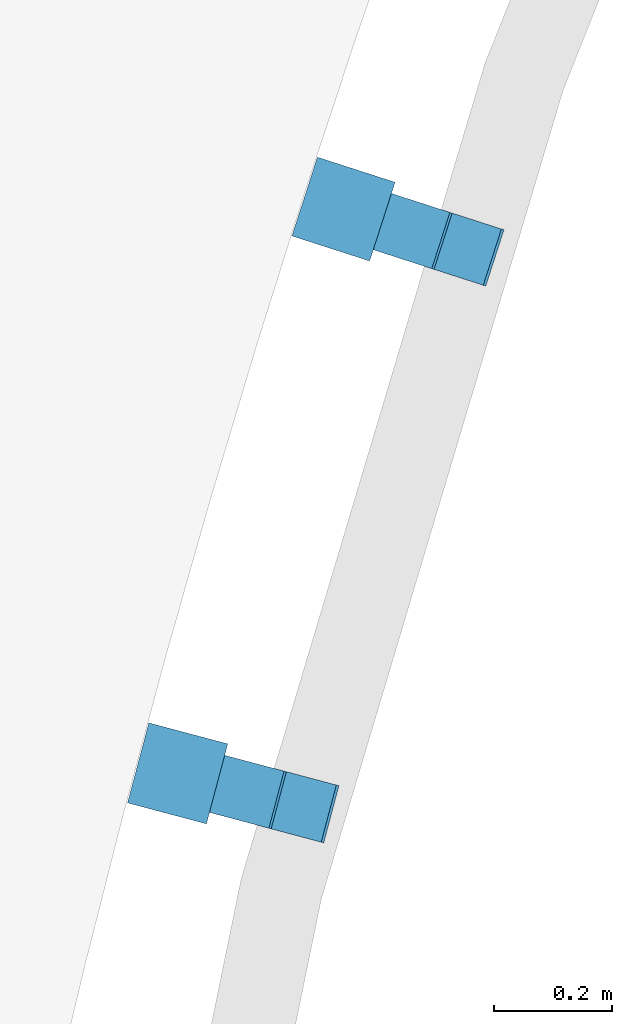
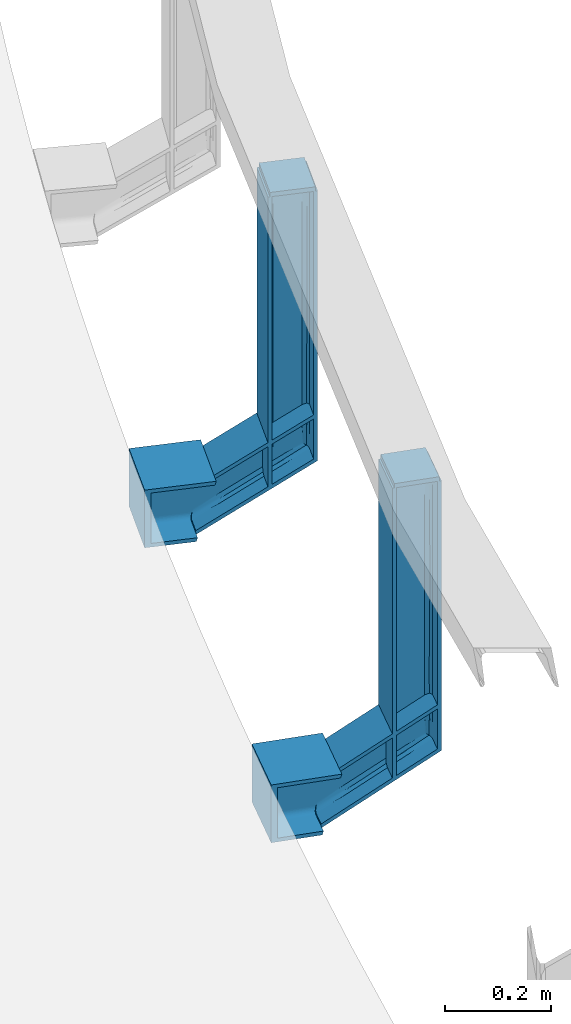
# One storey, part 44 of 68: 2 beams.
"""IFC2X3 building model written with IfcOpenShell, lengths in millimetres."""

from ifc_helpers import new_model, entity, si_unit, converted_unit, derived_unit, direction, frame, origin, place, context, subcontext, project, spatial, faceted_brep, source, transform, mapped, material, type_object, type_shapes, element, save


model = new_model("IFC2X3")

# Units and contexts
model_context = context("Model", 3, precision=0.01, world=origin(), true_north=direction((6.12303176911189e-17, 1.0)))
body_context = subcontext(model_context, "Body", "Model", "MODEL_VIEW")
ifc_project = project(units=[si_unit("LENGTHUNIT", "METRE", prefix="MILLI"), si_unit("AREAUNIT", "SQUARE_METRE", prefix="MILLI"), si_unit("VOLUMEUNIT", "CUBIC_METRE"), converted_unit("PLANEANGLEUNIT", "DEGREE", entity("IfcRatioMeasure", 0.0174532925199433), si_unit("PLANEANGLEUNIT", "RADIAN"), dimensions=[0, 0, 0, 0, 0, 0, 0]), si_unit("MASSUNIT", "GRAM", prefix="KILO"), derived_unit("MASSDENSITYUNIT", [(si_unit("MASSUNIT", "GRAM", prefix="KILO"), 1), (si_unit("LENGTHUNIT", "METRE"), -3)]), derived_unit("MOMENTOFINERTIAUNIT", [(si_unit("LENGTHUNIT", "METRE"), 4)]), si_unit("TIMEUNIT", "SECOND"), si_unit("FREQUENCYUNIT", "HERTZ"), si_unit("THERMODYNAMICTEMPERATUREUNIT", "DEGREE_CELSIUS"), derived_unit("THERMALTRANSMITTANCEUNIT", [(si_unit("MASSUNIT", "GRAM", prefix="KILO"), 1), (si_unit("THERMODYNAMICTEMPERATUREUNIT", "KELVIN"), -1), (si_unit("TIMEUNIT", "SECOND"), -3)]), derived_unit("VOLUMETRICFLOWRATEUNIT", [(si_unit("LENGTHUNIT", "METRE"), 3), (si_unit("TIMEUNIT", "SECOND"), -1)]), si_unit("ELECTRICCURRENTUNIT", "AMPERE"), si_unit("ELECTRICVOLTAGEUNIT", "VOLT"), si_unit("POWERUNIT", "WATT"), si_unit("FORCEUNIT", "NEWTON", prefix="KILO"), si_unit("ILLUMINANCEUNIT", "LUX"), si_unit("LUMINOUSFLUXUNIT", "LUMEN"), si_unit("LUMINOUSINTENSITYUNIT", "CANDELA"), derived_unit("USERDEFINED", [(si_unit("MASSUNIT", "GRAM", prefix="KILO"), -1), (si_unit("LENGTHUNIT", "METRE"), -2), (si_unit("TIMEUNIT", "SECOND"), 3), (si_unit("LUMINOUSFLUXUNIT", "LUMEN"), 1)]), derived_unit("LINEARVELOCITYUNIT", [(si_unit("LENGTHUNIT", "METRE"), 1), (si_unit("TIMEUNIT", "SECOND"), -1)]), si_unit("PRESSUREUNIT", "PASCAL"), derived_unit("USERDEFINED", [(si_unit("LENGTHUNIT", "METRE"), -2), (si_unit("MASSUNIT", "GRAM", prefix="KILO"), 1), (si_unit("TIMEUNIT", "SECOND"), -2)]), derived_unit("LINEARFORCEUNIT", [(si_unit("MASSUNIT", "GRAM", prefix="KILO"), 1), (si_unit("LENGTHUNIT", "METRE"), 1), (si_unit("TIMEUNIT", "SECOND"), -2), (si_unit("LENGTHUNIT", "METRE"), -1)]), derived_unit("PLANARFORCEUNIT", [(si_unit("MASSUNIT", "GRAM", prefix="KILO"), 1), (si_unit("LENGTHUNIT", "METRE"), 1), (si_unit("TIMEUNIT", "SECOND"), -2), (si_unit("LENGTHUNIT", "METRE"), -2)])], contexts=[model_context])

# Site, building, storey
site_placement = place(None, origin())
site = spatial("IfcSite", under=ifc_project, at=site_placement, Name="Theater aan de Parade", CompositionType="ELEMENT")
building_placement = place(site_placement, origin())
building = spatial("IfcBuilding", under=site, at=building_placement, Name="Theater aan de Parade", CompositionType="ELEMENT")
storey_placement = place(building_placement, frame((0.0, 0.0, 8750.0)))
storey = spatial("IfcBuildingStorey", under=building, at=storey_placement, Name="02 tweede verdieping", CompositionType="ELEMENT", Elevation=8750.0)

# Beams
ifc_material = material(Name="00_PBT_MAT_staal_S355")
beam_type = type_object("IfcBeamType", Name="28_PBT_SF_staal_baluster balkon:baluster HEA100", PredefinedType="BEAM", material=ifc_material)
shared_shape = source(origin(), body_context, "Body", "Brep", [
    faceted_brep([(50.0, -43.537813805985, 625.0), (50.0, 44.0, 625.0), (50.0, 44.0, 635.0), (50.0, -43.537813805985, 635.0), (-50.0, -43.537813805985, 625.0), (-50.0, -43.537813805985, 635.0), (-50.0, 44.0, 635.0), (-50.0, 44.0, 625.0)], [[[0, 1, 2, 3]], [[4, 5, 6, 7]], [[1, 0, 4, 7]], [[2, 1, 7, 6]], [[3, 2, 6, 5]], [[0, 3, 5, 4]]]),
    faceted_brep([(70.0, 278.0, -133.0), (70.0, 290.0, -133.0), (70.0, 290.0, 0.0), (70.0, 278.0, 0.0), (-70.0, 278.0, -133.0), (-70.0, 278.0, 0.0), (-70.0, 290.0, 0.0), (-70.0, 290.0, -133.0)], [[[0, 1, 2, 3]], [[4, 5, 6, 7]], [[1, 0, 4, 7]], [[2, 1, 7, 6]], [[3, 2, 6, 5]], [[0, 3, 5, 4]]]),
    faceted_brep([(14.7499999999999, 278.0, -124.5), (70.0, 278.0, -124.5), (70.0, 278.0, -133.0), (-70.0, 278.0, -133.0), (-70.0, 278.0, -124.500000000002), (-14.7500000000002, 278.0, -124.500000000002), (-11.6441714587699, 278.0, -124.091109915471), (-8.75000000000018, 278.0, -122.892304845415), (-6.26471862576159, 278.0, -120.98528137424), (-4.3576951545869, 278.0, -118.500000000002), (-3.15889008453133, 278.0, -115.605828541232), (-2.75000000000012, 278.0, -112.500000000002), (-2.75000000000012, 278.0, -20.500000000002), (-3.15889008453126, 278.0, -17.3941714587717), (-4.35769515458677, 278.0, -14.500000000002), (-6.26471862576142, 278.0, -12.0147186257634), (-8.74999999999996, 278.0, -10.1076951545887), (-11.6441714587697, 278.0, -8.90889008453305), (-14.7500000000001, 278.0, -8.50000000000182), (-70.0, 278.0, -8.50000000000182), (-70.0, 278.0, 0.0), (70.0, 278.0, 0.0), (70.0, 278.0, -8.50000000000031), (14.7499999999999, 278.0, -8.50000000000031), (11.6441714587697, 278.0, -8.90889008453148), (8.74999999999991, 278.0, -10.107695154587), (6.26471862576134, 278.0, -12.0147186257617), (4.35769515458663, 278.0, -14.5000000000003), (3.15889008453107, 278.0, -17.39417145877), (2.74999999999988, 278.0, -20.5000000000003), (2.74999999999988, 278.0, -112.5), (3.15889008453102, 278.0, -115.60582854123), (4.35769515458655, 278.0, -118.5), (6.26471862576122, 278.0, -120.985281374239), (8.74999999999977, 278.0, -122.892304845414), (11.6441714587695, 278.0, -124.091109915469), (70.0, 151.923048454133, 0.0), (70.0, 154.37480362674, -8.50000000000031), (70.0, 187.834050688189, -124.5), (70.0, 190.285805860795, -133.0), (14.7499999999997, 154.37480362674, -8.50000000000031), (14.7499999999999, 214.85290376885, -8.50000000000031), (-14.7500000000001, 214.852897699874, -8.50000000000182), (-14.7500000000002, 154.37480362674, -8.50000000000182), (-70.0, 154.37480362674, -8.50000000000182), (6.43965673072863, 216.327371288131, -11.8433150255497), (2.74999999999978, 217.521900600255, -20.5000000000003), (12.079748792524, 154.461585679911, -8.8008650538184), (9.5433951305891, 154.717580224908, -9.68837358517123), (7.26812237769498, 155.129950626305, -11.1180222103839), (5.36802221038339, 155.678018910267, -13.0181223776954), (3.05086505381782, 157.065893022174, -17.8297487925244), (2.74999999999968, 157.83610504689, -20.5000000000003), (3.9383735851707, 156.334302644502, -15.2933951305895), (2.74999999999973, 184.372749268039, -112.5), (3.93837358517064, 185.874551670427, -117.706604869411), (3.05086505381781, 185.142961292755, -115.170251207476), (5.36802221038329, 186.530835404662, -119.981877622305), (7.26812237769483, 187.078903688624, -121.881977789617), (9.54339513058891, 187.491274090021, -123.311626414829), (12.0797487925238, 187.747268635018, -124.199134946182), (14.7499999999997, 187.834050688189, -124.5), (-70.0, 187.83405068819, -124.500000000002), (-14.7500000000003, 187.83405068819, -124.500000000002), (-70.0, 190.285805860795, -133.0), (-70.0, 151.923048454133, 0.0), (-9.54339513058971, 187.491274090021, -123.311626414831), (-12.0797487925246, 187.747268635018, -124.199134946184), (-7.2681223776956, 187.078903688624, -121.881977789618), (-5.36802221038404, 186.530835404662, -119.981877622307), (-3.93837358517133, 185.874551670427, -117.706604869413), (-3.05086505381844, 185.142961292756, -115.170251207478), (-2.75000000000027, 184.37274926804, -112.500000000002), (-2.75000000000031, 157.83610504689, -20.500000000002), (-2.75000000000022, 217.521907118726, -20.5000000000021), (-6.43965718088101, 216.327373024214, -11.8433145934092), (-3.05086505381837, 157.065893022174, -17.8297487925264), (-3.93837358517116, 156.334302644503, -15.2933951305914), (-5.36802221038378, 155.678018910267, -13.0181223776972), (-7.2681223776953, 155.129950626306, -11.1180222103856), (-9.54339513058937, 154.717580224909, -9.68837358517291), (-12.0797487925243, 154.461585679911, -8.80086505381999)], [[[0, 1, 2, 3, 4, 5, 6, 7, 8, 9, 10, 11, 12, 13, 14, 15, 16, 17, 18, 19, 20, 21, 22, 23, 24, 25, 26, 27, 28, 29, 30, 31, 32, 33, 34, 35]], [[22, 21, 36, 37]], [[2, 1, 38, 39]], [[23, 22, 37, 40, 41]], [[19, 18, 42, 43, 44]], [[24, 45, 25]], [[25, 45, 26]], [[27, 45, 46]], [[41, 40, 47]], [[23, 41, 24]], [[27, 26, 45]], [[41, 47, 48]], [[45, 49, 50]], [[46, 29, 28]], [[48, 45, 41]], [[46, 28, 27]], [[51, 52, 46]], [[51, 46, 53]], [[45, 53, 46]], [[50, 53, 45]], [[48, 49, 45]], [[41, 45, 24]], [[30, 29, 46, 52, 54]], [[55, 32, 31]], [[56, 31, 30]], [[30, 54, 56]], [[32, 55, 57]], [[55, 31, 56]], [[57, 33, 32]], [[34, 33, 58]], [[35, 34, 59]], [[0, 35, 60]], [[34, 58, 59]], [[0, 60, 61]], [[60, 35, 59]], [[57, 58, 33]], [[1, 0, 61, 38]], [[5, 4, 62, 63]], [[3, 2, 39, 64]], [[4, 3, 64, 62]], [[20, 19, 44, 65]], [[66, 7, 6]], [[67, 6, 5]], [[5, 63, 67]], [[7, 66, 68]], [[66, 6, 67]], [[68, 8, 7]], [[9, 8, 69]], [[10, 9, 70]], [[11, 10, 71]], [[9, 69, 70]], [[11, 71, 72]], [[71, 10, 70]], [[68, 69, 8]], [[12, 11, 72, 73, 74]], [[74, 14, 13]], [[75, 15, 14]], [[17, 16, 75]], [[74, 73, 76]], [[16, 15, 75]], [[76, 77, 74]], [[75, 78, 79]], [[80, 81, 42]], [[77, 75, 74]], [[12, 74, 13]], [[75, 42, 17]], [[42, 18, 17]], [[42, 81, 43]], [[75, 80, 42]], [[80, 75, 79]], [[77, 78, 75]], [[75, 14, 74]], [[21, 20, 65, 36]], [[61, 60, 59, 58, 57, 55, 56, 54, 52, 51, 53, 50, 49, 48, 47, 40, 37, 36, 65, 44, 43, 81, 80, 79, 78, 77, 76, 73, 72, 71, 70, 69, 68, 66, 67, 63, 62, 64, 39, 38]]]),
    faceted_brep([(50.0, 155.119944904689, -11.0833333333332), (50.0, 151.923048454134, 0.0), (50.0, -48.0, 115.425625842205), (50.0, -48.0, 106.188021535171), (50.0, 190.285805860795, -133.0), (50.0, 187.08890941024, -121.916666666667), (50.0, -48.0, 13.8119784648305), (50.0, -48.0, 4.57437415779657), (14.4999999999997, 155.119944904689, -11.0833333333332), (14.4999999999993, -48.0, 106.188021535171), (14.4999999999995, 4.37555520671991, 75.9489806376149), (14.4999999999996, 56.7511250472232, 45.7099312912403), (-50.0, 155.119944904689, -11.0833333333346), (-14.5000000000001, 155.119944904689, -11.0833333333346), (-14.5000000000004, 56.7511361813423, 45.7099248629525), (-14.5000000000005, 4.37556274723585, 75.9489762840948), (-14.5000000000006, -48.0, 106.188021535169), (-50.0, -48.0, 106.188021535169), (12.1589161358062, 155.212086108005, -11.4027780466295), (6.13940978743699, 85.6560198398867, 25.105130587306), (9.9077988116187, 155.484968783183, -12.348836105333), (2.80086505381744, -48.0, 95.4149555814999), (2.49999999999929, -48.0, 92.3316150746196), (2.49999999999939, 4.37556701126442, 62.092567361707), (2.49999999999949, 55.164155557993, 32.7697620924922), (6.04197655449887, 10.2229142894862, 68.5459327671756), (2.49999999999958, 107.539722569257, 2.53071437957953), (2.49999999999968, 159.915289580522, -27.7083333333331), (2.73057663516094, 158.979764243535, -24.4649567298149), (7.83315720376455, 155.92810620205, -13.8851510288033), (11.8297487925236, -48.0, 105.840612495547), (3.41344560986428, 158.0801906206, -21.3462212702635), (4.52236465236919, 157.25113882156, -18.4719782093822), (7.01812237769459, -48.0, 103.164989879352), (5.11802221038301, -48.0, 100.970943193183), (3.68837358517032, -48.0, 98.3436845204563), (9.29339513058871, -48.0, 104.815805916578), (6.01471862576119, 156.524468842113, -15.9526830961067), (2.49999999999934, -48.0, 27.6683849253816), (2.49999999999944, 4.37556959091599, -2.57066427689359), (2.49999999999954, 56.7511354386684, -32.8097113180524), (2.49999999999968, 129.917998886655, -75.052619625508), (2.49999999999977, 182.293564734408, -105.291666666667), (4.52236465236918, 184.957715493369, -114.528021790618), (6.30956465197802, 103.743785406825, -70.0679088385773), (6.01471862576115, 185.684385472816, -117.047316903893), (14.4999999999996, 134.713341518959, -91.6776184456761), (9.90779881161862, 186.723885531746, -120.651163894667), (7.83315720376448, 186.280748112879, -119.114848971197), (12.1589161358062, 186.996768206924, -121.597221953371), (14.4999999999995, 69.5444547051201, -54.0523441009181), (5.87838992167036, 26.3899882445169, -24.9186641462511), (14.4999999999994, 4.3755678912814, -16.4270697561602), (5.11802221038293, -48.0, 19.0290568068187), (3.4134456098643, 184.128663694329, -111.653778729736), (2.80086505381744, -48.0, 24.5850444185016), (3.68837358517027, -48.0, 21.6563154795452), (14.4999999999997, 187.08890941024, -121.916666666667), (7.01812237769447, -48.0, 16.8350101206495), (9.29339513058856, -48.0, 15.1841940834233), (2.73057663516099, 183.229090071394, -108.535043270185), (14.4999999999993, -48.0, 13.8119784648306), (11.8297487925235, -48.0, 14.1593875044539), (-50.0, 187.088909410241, -121.916666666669), (-50.0, -48.0, 13.8119784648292), (-14.5000000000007, -48.0, 13.8119784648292), (-14.5000000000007, 4.37556899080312, -16.4270703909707), (-14.5000000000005, 69.5444561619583, -54.0523449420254), (-14.5000000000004, 134.713343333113, -91.6776194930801), (-14.5000000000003, 187.088909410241, -121.916666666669), (-50.0, 190.285805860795, -133.0), (-50.0, -48.0, 4.57437415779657), (-50.0, 151.923048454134, 0.0), (-50.0, -48.0, 115.425625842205), (-6.30956482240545, 103.743788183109, -70.0679106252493), (-3.41344560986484, 184.128663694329, -111.653778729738), (-4.52236465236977, 184.95771549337, -114.52802179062), (-2.50000000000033, 129.917999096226, -75.0526197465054), (-9.29339513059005, -48.0, 15.1841940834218), (-7.01812237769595, -48.0, 16.835010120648), (-5.87838988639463, 26.389986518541, -24.9186631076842), (-7.8331572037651, 186.28074811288, -119.114848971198), (-6.01471862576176, 185.684385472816, -117.047316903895), (-11.829748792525, -48.0, 14.1593875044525), (-5.11802221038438, -48.0, 19.0290568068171), (-2.50000000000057, 4.37557526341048, -2.57066755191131), (-2.50000000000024, 182.293564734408, -105.291666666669), (-2.7305766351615, 183.229090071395, -108.535043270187), (-9.90779881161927, 186.723885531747, -120.651163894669), (-12.1589161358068, 186.996768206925, -121.597221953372), (-2.80086505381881, -48.0, 24.5850444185), (-2.50000000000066, -48.0, 27.6683849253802), (-2.50000000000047, 56.7511409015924, -32.8097144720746), (-3.68837358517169, -48.0, 21.6563154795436), (-2.50000000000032, 159.915289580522, -27.708333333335), (-2.50000000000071, -48.0, 92.3316150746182), (-2.50000000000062, 4.37556371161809, 62.0925692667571), (-2.50000000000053, 55.1641543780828, 32.7697627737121), (-2.50000000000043, 107.539718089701, 2.53071696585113), (-2.73057663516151, 158.979764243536, -24.464956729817), (-11.8297487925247, -48.0, 105.840612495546), (-6.01471862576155, 156.524468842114, -15.9526830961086), (-6.13940988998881, 85.6560228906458, 25.1051289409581), (-7.83315720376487, 155.92810620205, -13.885151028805), (-5.11802221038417, -48.0, 100.970943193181), (-7.0181223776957, -48.0, 103.16498987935), (-6.04197656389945, 10.2229155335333, 68.5459320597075), (-9.90779881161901, 155.484968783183, -12.3488361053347), (-4.52236465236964, 157.25113882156, -18.4719782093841), (-2.80086505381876, -48.0, 95.4149555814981), (-3.68837358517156, -48.0, 98.3436845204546), (-12.1589161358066, 155.212086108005, -11.402778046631), (-3.41344560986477, 158.080190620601, -21.3462212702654), (-9.29339513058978, -48.0, 104.815805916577)], [[[0, 1, 2, 3]], [[4, 5, 6, 7]], [[8, 0, 3, 9, 10, 11]], [[12, 13, 14, 15, 16, 17]], [[18, 19, 20]], [[21, 22, 23]], [[23, 24, 25]], [[26, 27, 28]], [[29, 20, 19]], [[26, 19, 24]], [[10, 25, 11]], [[8, 11, 18]], [[18, 11, 19]], [[11, 25, 19]], [[19, 25, 24]], [[10, 9, 30]], [[31, 32, 26]], [[33, 34, 25]], [[35, 25, 34]], [[23, 25, 35]], [[33, 25, 36]], [[28, 31, 26]], [[37, 19, 32]], [[36, 10, 30]], [[19, 26, 32]], [[21, 23, 35]], [[25, 10, 36]], [[29, 19, 37]], [[27, 26, 24, 23, 22, 38, 39, 40, 41, 42]], [[43, 44, 45]], [[46, 47, 48]], [[49, 47, 46]], [[50, 51, 52]], [[51, 39, 53]], [[44, 43, 54]], [[39, 38, 55]], [[56, 39, 55]], [[46, 57, 49]], [[44, 41, 40]], [[51, 53, 58]], [[44, 48, 45]], [[58, 59, 51]], [[44, 54, 41]], [[60, 41, 54]], [[51, 44, 40]], [[61, 52, 62]], [[51, 40, 39]], [[50, 46, 44]], [[46, 48, 44]], [[53, 39, 56]], [[60, 42, 41]], [[62, 52, 59]], [[50, 44, 51]], [[59, 52, 51]], [[5, 57, 46, 50, 52, 61, 6]], [[63, 64, 65, 66, 67, 68, 69]], [[70, 4, 7, 71]], [[63, 70, 71, 64]], [[72, 12, 17, 73]], [[74, 68, 67]], [[74, 75, 76]], [[75, 74, 77]], [[78, 79, 80]], [[81, 74, 82]], [[78, 66, 83]], [[84, 85, 80]], [[77, 86, 87]], [[68, 81, 88]], [[89, 68, 88]], [[90, 91, 85]], [[80, 74, 67]], [[66, 78, 80]], [[74, 80, 92]], [[66, 65, 83]], [[92, 80, 85]], [[90, 85, 93]], [[85, 84, 93]], [[81, 68, 74]], [[79, 84, 80]], [[68, 89, 69]], [[76, 82, 74]], [[92, 77, 74]], [[75, 77, 87]], [[66, 80, 67]], [[94, 86, 77, 92, 85, 91, 95, 96, 97, 98]], [[98, 99, 94]], [[100, 16, 15]], [[101, 102, 103]], [[104, 105, 106]], [[103, 102, 107]], [[108, 102, 101]], [[102, 106, 14]], [[102, 97, 106]], [[108, 98, 102]], [[96, 109, 110]], [[102, 111, 107]], [[96, 106, 97]], [[104, 106, 110]], [[99, 98, 112]], [[106, 15, 14]], [[108, 112, 98]], [[100, 15, 113]], [[111, 102, 14]], [[110, 106, 96]], [[98, 97, 102]], [[15, 106, 113]], [[14, 13, 111]], [[113, 106, 105]], [[96, 95, 109]], [[1, 72, 73, 2]], [[61, 62, 59, 58, 53, 56, 55, 38, 22, 21, 35, 34, 33, 36, 30, 9, 3, 2, 73, 17, 16, 100, 113, 105, 104, 110, 109, 95, 91, 90, 93, 84, 79, 78, 83, 65, 64, 71, 7, 6]], [[8, 18, 20, 29, 37, 32, 31, 28, 27, 42, 60, 54, 43, 45, 48, 47, 49, 57, 5, 4, 70, 63, 69, 89, 88, 81, 82, 76, 75, 87, 86, 94, 99, 112, 108, 101, 103, 107, 111, 13, 12, 72, 1, 0]]]),
    faceted_brep([(14.4999999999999, 40.0, 625.0), (50.0, 40.0, 625.0), (50.0, 48.0, 625.0), (-50.0, 48.0, 625.0), (-50.0, 40.0, 625.0), (-14.5000000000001, 40.0, 625.0), (-11.3941714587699, 39.5911099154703, 625.0), (-8.50000000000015, 38.3923048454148, 625.0), (-6.01471862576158, 36.4852813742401, 625.0), (-4.10769515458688, 34.0, 625.0), (-2.90889008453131, 31.1058285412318, 625.0), (-2.50000000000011, 28.0, 625.0), (-2.50000000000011, -28.0, 625.0), (-2.90889008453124, -31.1058285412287, 625.0), (-4.10769515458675, -34.0, 625.0), (-6.01471862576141, -36.4852813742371, 625.0), (-8.49999999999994, -38.3923048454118, 625.0), (-11.3941714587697, -39.5911099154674, 625.0), (-14.5000000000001, -40.0, 625.0), (-50.0, -40.0, 625.0), (-50.0, -48.0, 625.0), (50.0, -48.0, 625.0), (50.0, -40.0, 625.0), (14.4999999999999, -40.0, 625.0), (11.3941714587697, -39.5911099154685, 625.0), (8.49999999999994, -38.392304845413, 625.0), (6.01471862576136, -36.4852813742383, 625.0), (4.10769515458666, -34.0, 625.0), (2.90889008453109, -31.10582854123, 625.0), (2.49999999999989, -28.0, 625.0), (2.49999999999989, 28.0, 625.0), (2.90889008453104, 31.1058285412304, 625.0), (4.10769515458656, 34.0, 625.0), (6.01471862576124, 36.4852813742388, 625.0), (8.4999999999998, 38.3923048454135, 625.0), (11.3941714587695, 39.5911099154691, 625.0), (50.0, -48.0, 165.0), (50.0, -48.0, 4.57437415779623), (50.0, -40.0, -0.0444279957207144), (50.0, 40.0, -46.2324495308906), (50.0, 48.0, -50.8512516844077), (14.4999999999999, -40.0, -0.0444279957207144), (14.4999999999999, -40.0, 60.433662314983), (14.4999999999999, -40.0, 156.216673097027), (14.4999999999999, -40.0, 234.347235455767), (14.4999999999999, -40.0, 312.477797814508), (14.4999999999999, -40.0, 390.608336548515), (14.4999999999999, -40.0, 468.738898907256), (14.4999999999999, -40.0, 564.521909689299), (-14.4999999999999, -40.0, 564.521898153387), (-14.4999999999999, -40.0, 468.738893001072), (-14.4999999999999, -40.0, 390.608339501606), (-14.4999999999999, -40.0, 312.477786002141), (-14.5, -40.0, 234.347232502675), (-14.5, -40.0, 156.21667900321), (-14.5, -40.0, 60.4336544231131), (-14.5, -40.0, -0.0444279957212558), (-50.0, -40.0, -0.0444279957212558), (6.01471822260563, -36.4852809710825, 534.282851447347), (6.38111782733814, -36.8365011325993, 422.595542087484), (2.49999999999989, -28.0, 429.969869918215), (2.49999999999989, -28.0, 504.043806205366), (7.01812237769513, -37.3819777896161, -1.55594382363), (5.87838991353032, -36.3467262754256, 83.7445110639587), (9.29339513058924, -38.8116264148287, -0.730535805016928), (2.49999999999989, -28.0, 564.521903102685), (5.11802221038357, -35.4818776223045, -2.65296716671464), (11.8297487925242, -39.6991349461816, -0.21813251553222), (5.33717277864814, -35.7487158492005, 157.721305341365), (6.03175640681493, -36.5022850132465, 273.412504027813), (2.49999999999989, -28.0, 113.983554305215), (2.80086505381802, -30.6702512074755, -5.43096097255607), (2.49999999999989, -28.0, -6.97263122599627), (2.49999999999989, -28.0, 53.5054574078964), (6.45584074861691, -36.9045775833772, 351.543056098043), (3.68837358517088, -33.2066048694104, -3.96659650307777), (2.49999999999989, -28.0, 174.461651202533), (2.49999999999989, -28.0, 234.939748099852), (2.49999999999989, -28.0, 332.454809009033), (2.49999999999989, 28.0, -39.3042463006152), (2.49999999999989, 28.0, 21.173847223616), (2.49999999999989, 28.0, 81.6519407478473), (2.49999999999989, 28.0, 171.891681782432), (2.49999999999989, 28.0, 277.489637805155), (2.49999999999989, 28.0, 383.087609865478), (2.49999999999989, 28.0, 443.56570338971), (2.49999999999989, 28.0, 504.043796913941), (2.49999999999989, 28.0, 564.521906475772), (14.4999999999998, 40.0, 564.521898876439), (6.01471890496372, 36.4852816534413, 534.282850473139), (14.4999999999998, 40.0, 457.191892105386), (14.4999999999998, 40.0, 74.7237437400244), (5.87838987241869, 36.3467262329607, 51.4128968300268), (14.4999999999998, 40.0, 14.245651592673), (7.12980766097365, 37.4699664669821, 128.3887480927), (14.4999999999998, 40.0, 182.05375948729), (5.68142979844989, 36.138354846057, 331.335798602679), (14.4999999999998, 40.0, 289.383775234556), (14.4999999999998, 40.0, 373.287833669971), (6.48410362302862, 36.9300282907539, 264.631830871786), (3.68837358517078, 33.2066048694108, -42.3102810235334), (5.11802221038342, 35.481877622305, -43.6239103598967), (11.8297487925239, 39.6991349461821, -46.058745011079), (14.4999999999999, 40.0, -46.2324495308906), (9.29339513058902, 38.8116264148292, -45.5463417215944), (7.01812237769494, 37.3819777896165, -44.7209337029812), (5.85986411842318, 36.3275477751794, 197.731198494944), (5.34384824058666, 35.7566026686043, 460.437179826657), (2.80086505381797, 30.6702512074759, -40.8459165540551), (6.59968170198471, 37.0324399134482, 396.193688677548), (-50.0, 40.0, -46.2324495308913), (-14.5000000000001, 40.0, -46.2324495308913), (-14.5000000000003, 40.0, 14.245637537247), (-14.5000000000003, 40.0, 121.575655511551), (-14.5000000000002, 40.0, 205.479712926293), (-14.5000000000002, 40.0, 289.383770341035), (-14.5000000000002, 40.0, 373.287827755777), (-14.5000000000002, 40.0, 457.191885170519), (-14.5000000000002, 40.0, 564.521903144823), (-50.0, 48.0, -50.8512516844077), (-50.0, -48.0, 4.57437415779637), (-50.0, -48.0, 165.0), (-6.01471845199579, 36.4852812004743, 534.282853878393), (-5.34384807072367, 35.7566024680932, 460.437182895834), (-2.5000000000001, 28.0, 504.043796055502), (-2.5000000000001, 28.0, 564.521888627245), (-7.01812237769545, 37.3819777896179, -44.720933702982), (-9.29339513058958, 38.8116264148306, -45.5463417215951), (-5.68142973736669, 36.1383547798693, 331.33579885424), (-6.3722320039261, 36.8283286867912, 262.824412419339), (-2.5000000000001, 28.0, 383.087610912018), (-6.59968165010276, 37.0324398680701, 396.193689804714), (-11.8297487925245, 39.6991349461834, -46.0587450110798), (-6.18948395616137, 36.6565191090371, 51.4128959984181), (-5.11802221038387, 35.4818776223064, -43.6239103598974), (-3.68837358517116, 33.2066048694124, -42.3102810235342), (-2.80086505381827, 30.6702512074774, -40.8459165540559), (-2.5000000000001, 28.0, 21.1738462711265), (-2.5000000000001, 28.0, 81.6519388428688), (-5.3518166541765, 35.7659990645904, 125.002033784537), (-2.5000000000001, 28.0, -39.3042463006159), (-2.5000000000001, 28.0, 277.489637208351), (-2.5000000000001, 28.0, 443.56570348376), (-2.5000000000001, 28.0, 171.891682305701), (-5.88018165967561, 36.3485766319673, 194.135386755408), (-2.50000000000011, -28.0, -6.97263122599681), (-2.50000000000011, -28.0, 53.5054568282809), (-2.50000000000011, -28.0, 113.983561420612), (-2.50000000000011, -28.0, 174.461666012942), (-2.50000000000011, -28.0, 234.93975406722), (-2.50000000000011, -28.0, 332.454811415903), (-2.50000000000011, -28.0, 429.969885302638), (-2.50000000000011, -28.0, 504.043823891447), (-2.50000000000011, -28.0, 564.521911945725), (-9.29339513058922, -38.8116264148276, -0.730535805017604), (-5.8783899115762, -36.3467262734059, 83.7445122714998), (-5.33717271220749, -35.7487157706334, 157.721307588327), (-6.0147187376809, -36.4852814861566, 534.282853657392), (-6.45584072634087, -36.9045775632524, 351.543059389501), (-6.38111797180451, -36.8365012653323, 422.595548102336), (-2.80086505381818, -30.6702512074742, -5.43096097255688), (-3.688373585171, -33.2066048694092, -3.96659650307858), (-5.11802221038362, -35.4818776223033, -2.65296716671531), (-7.01812237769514, -37.3819777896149, -1.55594382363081), (-6.03175635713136, -36.5022849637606, 273.412506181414), (-11.8297487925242, -39.6991349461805, -0.218132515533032)], [[[0, 1, 2, 3, 4, 5, 6, 7, 8, 9, 10, 11, 12, 13, 14, 15, 16, 17, 18, 19, 20, 21, 22, 23, 24, 25, 26, 27, 28, 29, 30, 31, 32, 33, 34, 35]], [[22, 21, 36, 37, 38]], [[2, 1, 39, 40]], [[23, 22, 38, 41, 42, 43, 44, 45, 46, 47, 48]], [[19, 18, 49, 50, 51, 52, 53, 54, 55, 56, 57]], [[58, 26, 25]], [[26, 58, 27]], [[48, 47, 58]], [[59, 60, 61]], [[62, 63, 64]], [[28, 27, 65]], [[63, 62, 66]], [[42, 41, 67]], [[68, 69, 44]], [[63, 70, 68]], [[58, 61, 65]], [[42, 63, 43]], [[68, 43, 63]], [[64, 42, 67]], [[24, 23, 48]], [[71, 72, 73]], [[25, 48, 58]], [[69, 74, 45]], [[45, 74, 46]], [[65, 27, 58]], [[24, 48, 25]], [[71, 73, 75]], [[64, 63, 42]], [[70, 63, 73]], [[73, 66, 75]], [[58, 59, 61]], [[66, 73, 63]], [[65, 29, 28]], [[44, 69, 45]], [[76, 77, 68, 70]], [[44, 43, 68]], [[77, 78, 69]], [[78, 60, 74]], [[77, 69, 68]], [[59, 46, 74]], [[59, 74, 60]], [[78, 74, 69]], [[59, 47, 46]], [[47, 59, 58]], [[30, 29, 65, 61, 60, 78, 77, 76, 70, 73, 72, 79, 80, 81, 82, 83, 84, 85, 86, 87]], [[34, 88, 35]], [[89, 90, 88]], [[91, 92, 93]], [[33, 89, 34]], [[81, 80, 92]], [[94, 91, 95]], [[32, 89, 33]], [[96, 97, 98]], [[97, 96, 99]], [[100, 101, 92]], [[87, 86, 89]], [[31, 87, 32]], [[100, 92, 80]], [[102, 103, 93]], [[102, 93, 104]], [[32, 87, 89]], [[101, 105, 92]], [[93, 105, 104]], [[106, 95, 99]], [[88, 34, 89]], [[107, 89, 86]], [[88, 0, 35]], [[80, 108, 100]], [[80, 79, 108]], [[105, 93, 92]], [[31, 30, 87]], [[106, 94, 95]], [[94, 82, 81]], [[90, 89, 107]], [[92, 94, 81]], [[91, 94, 92]], [[82, 94, 106]], [[109, 98, 90]], [[107, 85, 109]], [[84, 109, 85]], [[109, 96, 98]], [[96, 84, 83]], [[106, 83, 82]], [[99, 96, 83]], [[97, 99, 95]], [[106, 99, 83]], [[96, 109, 84]], [[107, 86, 85]], [[107, 109, 90]], [[1, 0, 88, 90, 98, 97, 95, 91, 93, 103, 39]], [[5, 4, 110, 111, 112, 113, 114, 115, 116, 117, 118]], [[3, 2, 40, 119]], [[4, 3, 119, 110]], [[20, 19, 57, 120, 121]], [[8, 7, 122]], [[7, 118, 122]], [[123, 124, 122]], [[124, 125, 122]], [[126, 112, 127]], [[6, 5, 118]], [[6, 118, 7]], [[123, 122, 117]], [[128, 115, 129]], [[128, 130, 131]], [[112, 111, 132]], [[133, 126, 134]], [[8, 122, 9]], [[133, 113, 112]], [[133, 134, 135]], [[136, 137, 135]], [[118, 117, 122]], [[135, 137, 133]], [[138, 139, 133]], [[138, 133, 137]], [[122, 125, 9]], [[137, 136, 140]], [[127, 112, 132]], [[125, 11, 10]], [[112, 126, 133]], [[10, 9, 125]], [[113, 133, 139]], [[128, 141, 130]], [[142, 124, 123]], [[123, 117, 131]], [[115, 128, 116]], [[116, 128, 131]], [[139, 138, 143]], [[144, 114, 113]], [[113, 139, 144]], [[143, 144, 139]], [[144, 141, 129]], [[115, 114, 129]], [[144, 143, 141]], [[128, 129, 141]], [[144, 129, 114]], [[116, 131, 117]], [[130, 142, 131]], [[142, 123, 131]], [[11, 125, 124, 142, 130, 141, 143, 138, 137, 140, 145, 146, 147, 148, 149, 150, 151, 152, 153, 12]], [[49, 17, 16]], [[154, 55, 155]], [[156, 147, 155]], [[157, 153, 152]], [[14, 157, 15]], [[157, 16, 15]], [[158, 51, 159]], [[157, 50, 49]], [[160, 161, 146]], [[156, 155, 54]], [[49, 18, 17]], [[13, 153, 14]], [[12, 153, 13]], [[155, 162, 163]], [[151, 158, 159]], [[14, 153, 157]], [[146, 145, 160]], [[163, 154, 155]], [[155, 147, 146]], [[146, 162, 155]], [[164, 158, 150]], [[165, 56, 55]], [[54, 155, 55]], [[49, 16, 157]], [[161, 162, 146]], [[165, 55, 154]], [[159, 50, 157]], [[152, 159, 157]], [[148, 147, 156, 149]], [[149, 156, 164]], [[53, 52, 164]], [[156, 54, 53]], [[53, 164, 156]], [[51, 158, 52]], [[149, 164, 150]], [[52, 158, 164]], [[150, 158, 151]], [[152, 151, 159]], [[159, 51, 50]], [[21, 20, 121, 120, 37, 36]], [[103, 102, 104, 105, 101, 100, 108, 79, 72, 71, 75, 66, 62, 64, 67, 41, 38, 37, 120, 57, 56, 165, 154, 163, 162, 161, 160, 145, 140, 136, 135, 134, 126, 127, 132, 111, 110, 119, 40, 39]]]),
])
type_shapes(beam_type, [shared_shape])
for number, where, z_axis, x_axis, name in (
    (1, (54256.1319888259, 38260.8558268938, -2040.0), (0.0, 0.0, 1.0), (0.307091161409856, 0.951680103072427, 0.0), "28_PBT_SF_staal_baluster balkon:baluster HEA100"),
    (2, (53978.9305554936, 37317.8375688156, -2040.0), (0.0, 0.0, 1.0), (0.257182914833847, 0.966362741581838, 0.0), "28_PBT_SF_staal_baluster balkon:baluster HEA100"),
):
    element("IfcBeam", number, at=place(storey_placement, frame(where, z_axis=z_axis, x_axis=x_axis)), inside=storey, type_object=beam_type, material=ifc_material, Name=name, ObjectType="28_PBT_SF_staal_baluster balkon:baluster HEA100", context=body_context, shape_type="MappedRepresentation", body=[
        mapped(shared_shape, transform((0.0, 0.0, 0.0), scale=1.0)),
    ])

save(model, "model.ifc")
